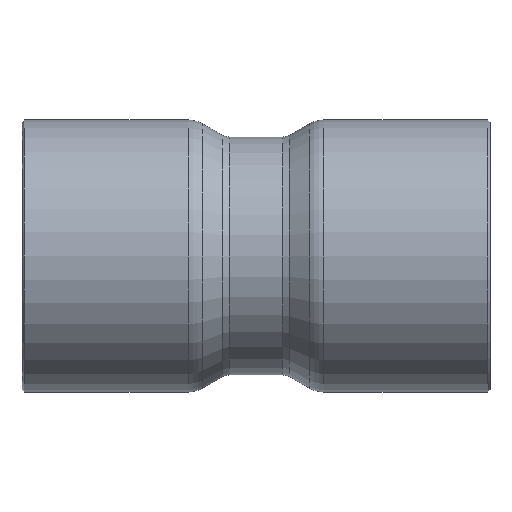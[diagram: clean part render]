
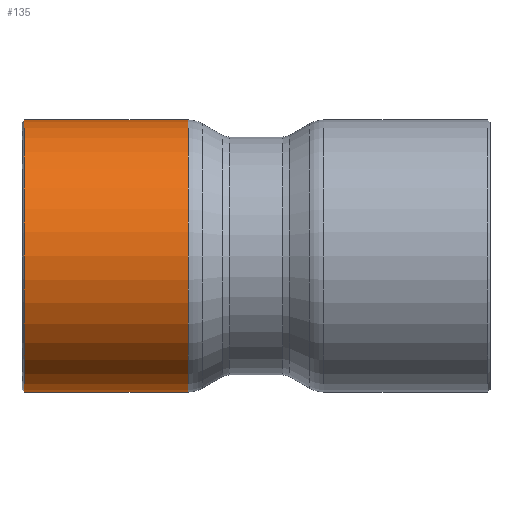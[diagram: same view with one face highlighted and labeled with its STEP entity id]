
A CAD part, front view. The second image highlights one B-rep face of the part: STEP entity #135.
In plain terms, the highlighted cylindrical face has radius 10.9 mm (diameter 21.8 mm), a full revolution.
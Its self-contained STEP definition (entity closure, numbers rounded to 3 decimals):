
#84=CARTESIAN_POINT('',(-18.55,10.9,0.));
#85=VERTEX_POINT('',#84);
#86=CARTESIAN_POINT('',(-18.55,0.0,0.0));
#87=DIRECTION('',(-1.0,0.0,0.0));
#88=DIRECTION('',(0.0,-1.0,0.0));
#89=AXIS2_PLACEMENT_3D('',#86,#87,#88);
#90=CIRCLE('',#89,10.9);
#91=EDGE_CURVE('',#85,#85,#90,.T.);
#116=CARTESIAN_POINT('',(-12.088,0.0,0.0));
#117=DIRECTION('',(1.0,0.0,0.0));
#118=DIRECTION('',(0.0,1.0,0.0));
#119=AXIS2_PLACEMENT_3D('',#116,#117,#118);
#120=CYLINDRICAL_SURFACE('',#119,10.9);
#121=CARTESIAN_POINT('',(-5.426,10.9,0.0));
#122=VERTEX_POINT('',#121);
#123=CARTESIAN_POINT('',(-5.426,0.0,0.0));
#124=DIRECTION('',(1.0,0.0,0.0));
#125=DIRECTION('',(0.0,1.0,0.0));
#126=AXIS2_PLACEMENT_3D('',#123,#124,#125);
#127=CIRCLE('',#126,10.9);
#128=EDGE_CURVE('',#122,#122,#127,.T.);
#129=ORIENTED_EDGE('',*,*,#128,.F.);
#130=EDGE_LOOP('',(#129));
#131=FACE_OUTER_BOUND('',#130,.T.);
#132=ORIENTED_EDGE('',*,*,#91,.F.);
#133=EDGE_LOOP('',(#132));
#134=FACE_BOUND('',#133,.T.);
#135=ADVANCED_FACE('',(#131,#134),#120,.T.);
